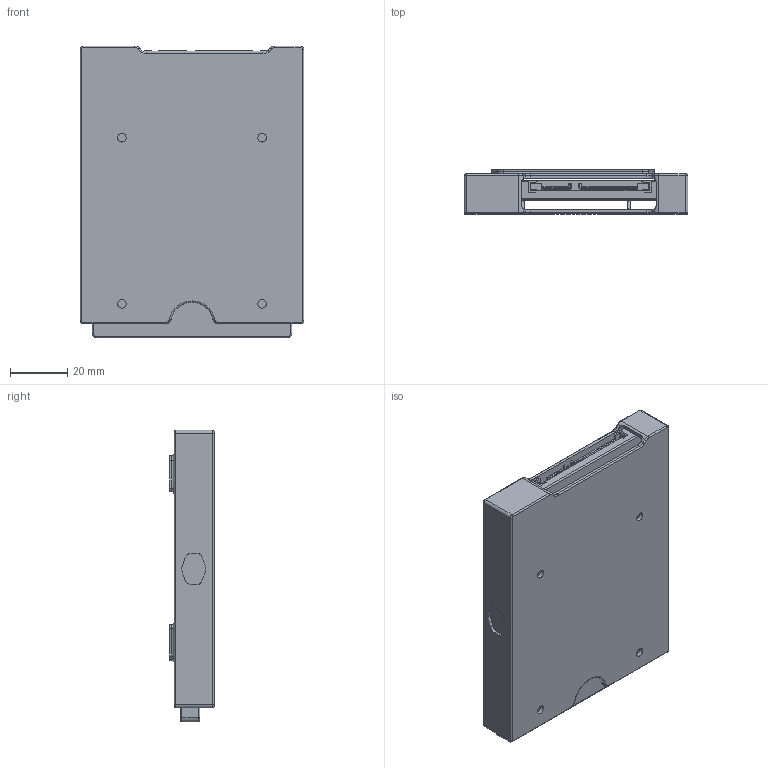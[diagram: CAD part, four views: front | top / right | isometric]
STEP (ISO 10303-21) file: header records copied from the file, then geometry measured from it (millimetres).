
FILE_DESCRIPTION(/* description */ (''),/* implementation_level */ '2;1');
FILE_NAME(/* name */ 'C:/Users/meono/Desktop/2.5-SSD-SATA-BOX.step',/* time_stamp */ '2021-01-25T11:08:11+01:00',/* author */ (''),/* organization */ (''),/* preprocessor_version */ 'ST-DEVELOPER v18.1',/* originating_system */ 'Autodesk Translation Framework v9.7.1.1290',/* authorisation */ '');
FILE_SCHEMA (('AUTOMOTIVE_DESIGN { 1 0 10303 214 3 1 1 }'));
Products named in the file (3): 2.5-SSD-SATA-BOX; SSD-2_5INCH_1_1_1_1; 2-5INCH-SSD-BOTTOM-PANEL-NEW
Assembly tree (2 placements, depth 2):
  2.5-SSD-SATA-BOX
    SSD-2_5INCH_1_1_1_1
    2-5INCH-SSD-BOTTOM-PANEL-NEW
Bounding box: 78.2 x 15.5 x 101.9 mm (x, y, z)
Volume: 74074.5 mm3; surface area: 54748.8 mm2
Topology: 2 solids, 2 shells, 1883 faces, 5316 edges, 3504 vertices
Faces by surface type: plane 1658, cylinder 139, bspline 36, torus 34, cone 16
Full cylindrical faces by diameter (mm): 2.5 x4, 3 x4, 3.5 x2, 6 x4
Entity records: 61104 total; most frequent: CARTESIAN_POINT 12194, ORIENTED_EDGE 10624, DIRECTION 9284, EDGE_CURVE 5312, LINE 4884, VECTOR 4884, VERTEX_POINT 3504, AXIS2_PLACEMENT_3D 2200
